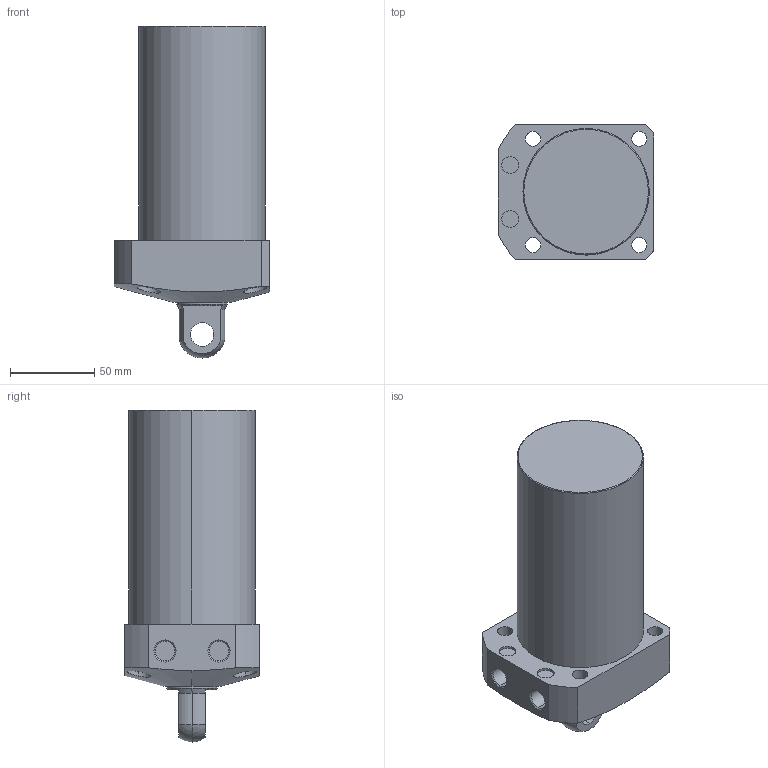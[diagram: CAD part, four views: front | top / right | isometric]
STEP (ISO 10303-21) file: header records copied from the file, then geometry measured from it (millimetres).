
FILE_DESCRIPTION (( 'STEP AP203' ), '1' );
FILE_NAME ('CLL-075CP-090.STEP', '2019-12-25T07:30:50', ( '' ), ( '' ), 'SwSTEP 2.0', 'SolidWorks 2015', '' );
FILE_SCHEMA (( 'CONFIG_CONTROL_DESIGN' ));
Length unit declared in the file: millimetre
Products named in the file (1): CLL-075CP-090
Bounding box: 92 x 80 x 197 mm (x, y, z)
Volume: 788510.7 mm3; surface area: 61827.3 mm2
Topology: 1 solids, 1 shells, 68 faces, 159 edges, 103 vertices
Faces by surface type: cylinder 35, plane 21, cone 8, sphere 2, torus 2
Entity records: 2459 total; most frequent: CARTESIAN_POINT 762, DIRECTION 357, ORIENTED_EDGE 318, EDGE_CURVE 159, AXIS2_PLACEMENT_3D 149, VERTEX_POINT 103, EDGE_LOOP 88, CIRCLE 80
